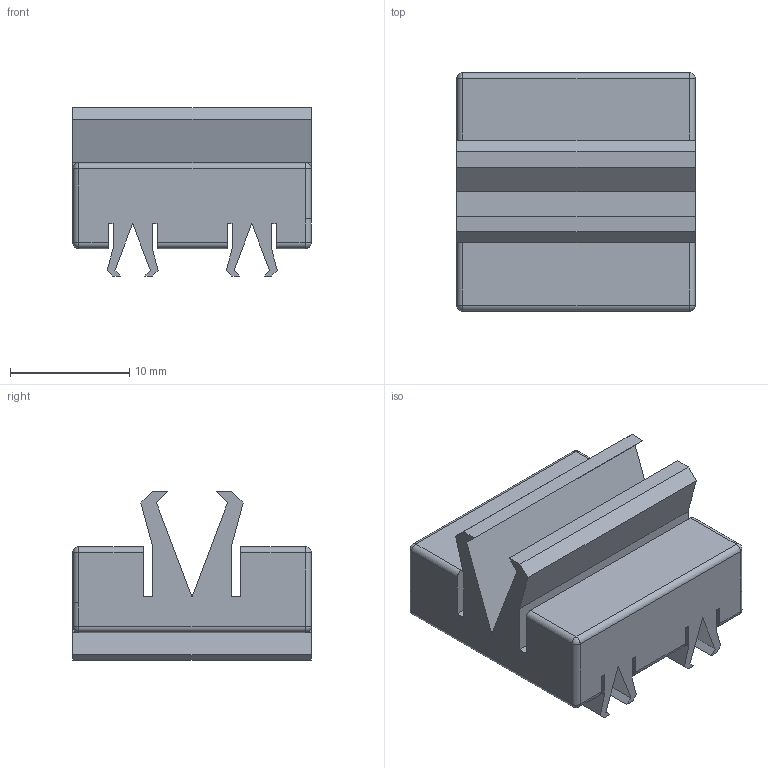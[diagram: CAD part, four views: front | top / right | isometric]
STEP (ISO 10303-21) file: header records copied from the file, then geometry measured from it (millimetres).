
FILE_DESCRIPTION(/* description */ (''),/* implementation_level */ '2;1');
FILE_NAME(/* name */ 'C:/Users/priba/Downloads/CouplerSingleDoubleMMCross.step',/* time_stamp */ '2022-04-11T08:10:39+02:00',/* author */ (''),/* organization */ (''),/* preprocessor_version */ 'ST-DEVELOPER v18.1',/* originating_system */ 'Autodesk Translation Framework v10.13.0.1454',/* authorisation */ '');
FILE_SCHEMA (('AUTOMOTIVE_DESIGN { 1 0 10303 214 3 1 1 }'));
Length unit declared in the file: millimetre
Products named in the file (1): CouplerSingleDoubleMMCross
Bounding box: 20 x 20 x 14.12 mm (x, y, z)
Volume: 2870.7 mm3; surface area: 3044 mm2
Topology: 1 solids, 1 shells, 89 faces, 237 edges, 150 vertices
Faces by surface type: plane 60, cylinder 21, sphere 8
Entity records: 2740 total; most frequent: CARTESIAN_POINT 477, ORIENTED_EDGE 474, DIRECTION 456, EDGE_CURVE 237, LINE 198, VECTOR 198, VERTEX_POINT 150, AXIS2_PLACEMENT_3D 129
